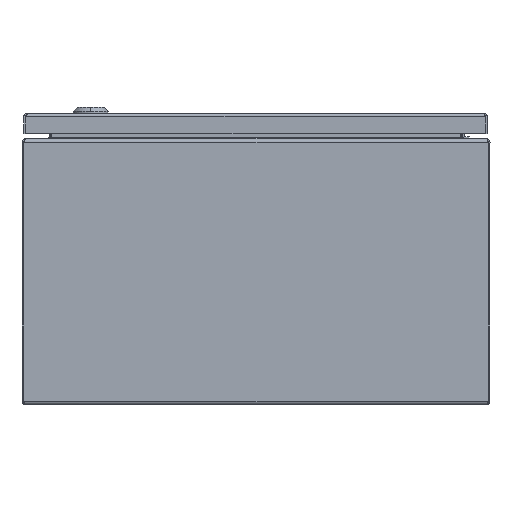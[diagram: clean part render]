
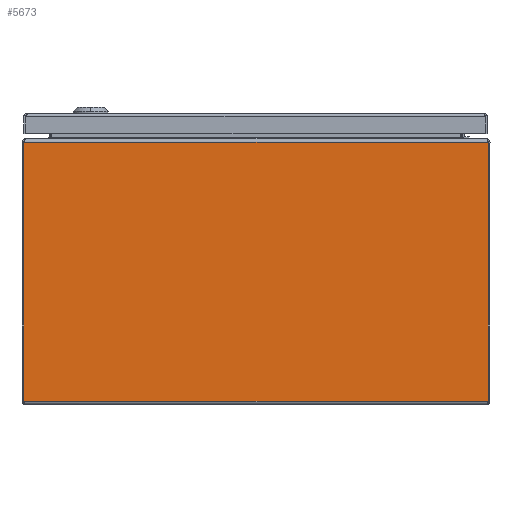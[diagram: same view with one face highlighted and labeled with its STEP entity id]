
A CAD part, front view. The second image highlights one B-rep face of the part: STEP entity #5673.
In plain terms, the highlighted planar face has unit normal (0, -1, 0).
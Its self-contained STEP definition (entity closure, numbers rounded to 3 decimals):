
#1874 = CARTESIAN_POINT ( 'NONE',  ( -198.359, -250., 224.3 ) ) ;
#1885 = VERTEX_POINT ( 'NONE', #1874 ) ;
#1959 = VERTEX_POINT ( 'NONE', #5418 ) ;
#2287 = VECTOR ( 'NONE', #33728, 1000. ) ;
#5418 = CARTESIAN_POINT ( 'NONE',  ( -198.359, -250., 2.95 ) ) ;
#5673 = ADVANCED_FACE ( 'NONE', ( #33767 ), #37518, .F. ) ;
#5734 = VECTOR ( 'NONE', #21222, 1000. ) ;
#7329 = ORIENTED_EDGE ( 'NONE', *, *, #23831, .F. ) ;
#7865 = VERTEX_POINT ( 'NONE', #34702 ) ;
#11216 = CARTESIAN_POINT ( 'NONE',  ( 198.359, -250., 2.95 ) ) ;
#11588 = ORIENTED_EDGE ( 'NONE', *, *, #16706, .F. ) ;
#12708 = VECTOR ( 'NONE', #14310, 1000. ) ;
#14310 = DIRECTION ( 'NONE',  ( 0., 0., -1. ) ) ;
#16706 = EDGE_CURVE ( 'NONE', #17432, #1959, #18195, .T. ) ;
#17432 = VERTEX_POINT ( 'NONE', #11216 ) ;
#18195 = LINE ( 'NONE', #43396, #5734 ) ;
#19733 = CARTESIAN_POINT ( 'NONE',  ( 2700., -250., 224.3 ) ) ;
#19968 = AXIS2_PLACEMENT_3D ( 'NONE', #19733, #27210, #33980 ) ;
#20400 = DIRECTION ( 'NONE',  ( -1., 0., 0. ) ) ;
#21222 = DIRECTION ( 'NONE',  ( -1., 0., 0. ) ) ;
#21741 = VECTOR ( 'NONE', #20400, 1000. ) ;
#23831 = EDGE_CURVE ( 'NONE', #1959, #1885, #38170, .T. ) ;
#24322 = LINE ( 'NONE', #38565, #12708 ) ;
#27210 = DIRECTION ( 'NONE',  ( 0., 1., 0. ) ) ;
#27587 = ORIENTED_EDGE ( 'NONE', *, *, #46075, .T. ) ;
#30685 = LINE ( 'NONE', #34838, #21741 ) ;
#33257 = ORIENTED_EDGE ( 'NONE', *, *, #44043, .F. ) ;
#33728 = DIRECTION ( 'NONE',  ( 0., 0., 1. ) ) ;
#33767 = FACE_OUTER_BOUND ( 'NONE', #45896, .T. ) ;
#33980 = DIRECTION ( 'NONE',  ( 0., 0., -1. ) ) ;
#34702 = CARTESIAN_POINT ( 'NONE',  ( 198.359, -250., 224.3 ) ) ;
#34838 = CARTESIAN_POINT ( 'NONE',  ( 2700., -250., 224.3 ) ) ;
#37518 = PLANE ( 'NONE',  #19968 ) ;
#37929 = CARTESIAN_POINT ( 'NONE',  ( -198.359, -250., 224.3 ) ) ;
#38170 = LINE ( 'NONE', #37929, #2287 ) ;
#38565 = CARTESIAN_POINT ( 'NONE',  ( 198.359, -250., 224.3 ) ) ;
#43396 = CARTESIAN_POINT ( 'NONE',  ( 2700., -250., 2.95 ) ) ;
#44043 = EDGE_CURVE ( 'NONE', #7865, #17432, #24322, .T. ) ;
#45896 = EDGE_LOOP ( 'NONE', ( #11588, #33257, #27587, #7329 ) ) ;
#46075 = EDGE_CURVE ( 'NONE', #7865, #1885, #30685, .T. ) ;
